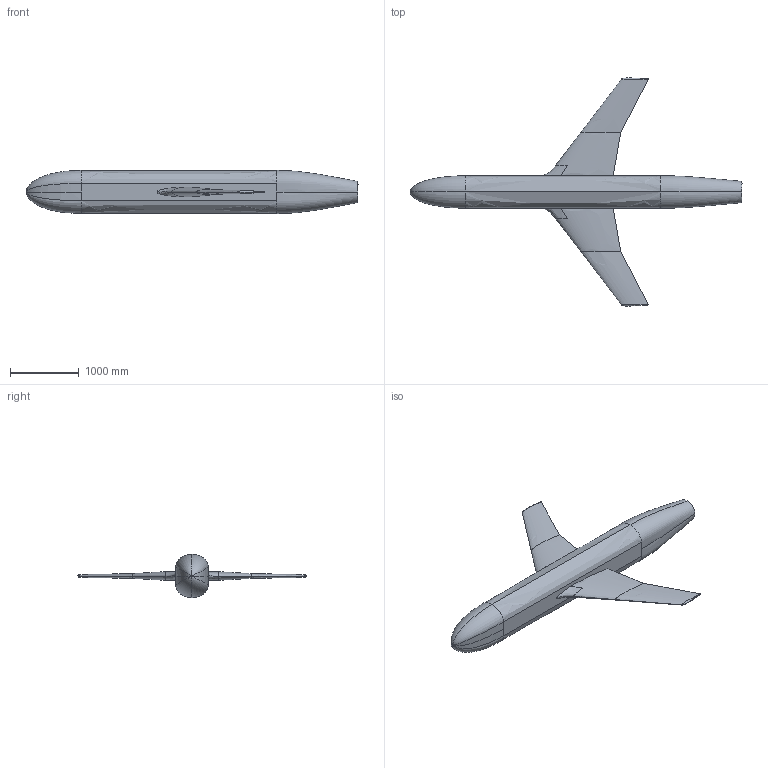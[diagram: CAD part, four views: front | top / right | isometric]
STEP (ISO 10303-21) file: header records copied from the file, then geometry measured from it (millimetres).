
FILE_DESCRIPTION(/* description */ (''),/* implementation_level */ '2;1');
FILE_NAME(/* name */ 'jfm_0015_based_wHorn_harrison_fuselage_2017_02_06_fullspan_mm.stp',/* time_stamp */ '2018-12-14T13:56:10-05:00',/* author */ (''),/* organization */ (''),/* preprocessor_version */ 'ST-DEVELOPER v16',/* originating_system */ 'SIEMENS PLM Software NX 10.0',/* authorisation */ '');
FILE_SCHEMA (('AP203_CONFIGURATION_CONTROLLED_3D_DESIGN_OF_MECHANICAL_PARTS_AND_ASSEMBLIES_MIM_LF { 1 0 10303 403 2 1 2}'));
Products named in the file (1): sbry191477C3owkr
Bounding box: 4839.23 x 3326.47 x 629.72 mm (x, y, z)
Volume: 1196499798.1 mm3; surface area: 11766064.4 mm2
Topology: 1 solids, 1 shells, 41 faces, 100 edges, 51 vertices
Faces by surface type: bspline 32, plane 9
Entity records: 34311 total; most frequent: CARTESIAN_POINT 33628, ORIENTED_EDGE 176, EDGE_CURVE 88, B_SPLINE_CURVE_WITH_KNOTS 78, VERTEX_POINT 51, EDGE_LOOP 43, ADVANCED_FACE 41, FACE_OUTER_BOUND 39
